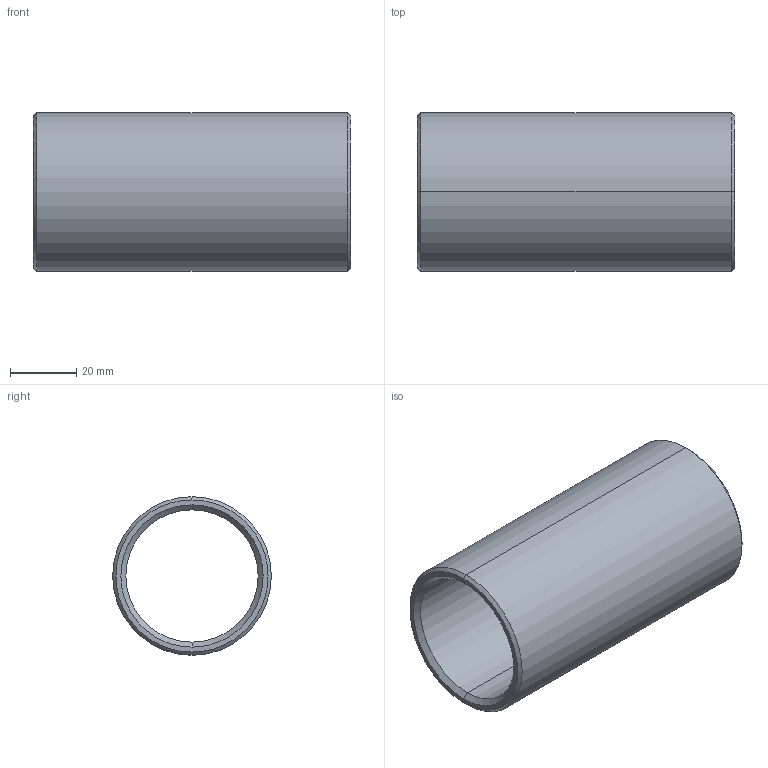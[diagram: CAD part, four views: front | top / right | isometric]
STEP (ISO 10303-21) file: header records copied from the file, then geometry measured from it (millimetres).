
FILE_DESCRIPTION(('CATIA V5 STEP Exchange'),'2;1');
FILE_NAME('C:\Users\Utente\Desktop\IO LAVORO\3D X SITO CF\X SITO\PLASTICA\352\352-40X96.stp','2021-04-14T14:51:12+00:00',('none'),('none'),'CATIA Version 5 Release 20 GA (IN-10)','CATIA V5 STEP AP203','none');
FILE_SCHEMA(('CONFIG_CONTROL_DESIGN'));
Length unit declared in the file: millimetre
Products named in the file (1): 352-40X96
Bounding box: 96 x 48 x 48 mm (x, y, z)
Volume: 52759.5 mm3; surface area: 27305.8 mm2
Topology: 1 solids, 1 shells, 14 faces, 44 edges, 32 vertices
Faces by surface type: cone 6, cylinder 4, plane 2, torus 2
Entity records: 634 total; most frequent: CARTESIAN_POINT 203, ORIENTED_EDGE 88, DIRECTION 64, EDGE_CURVE 44, AXIS2_PLACEMENT_3D 41, VERTEX_POINT 32, CIRCLE 26, EDGE_LOOP 16
